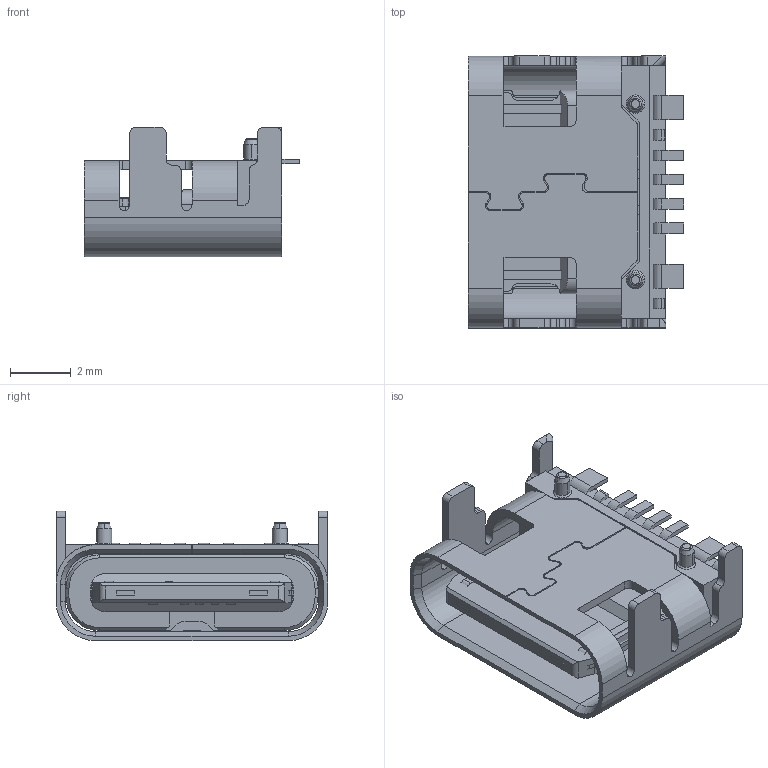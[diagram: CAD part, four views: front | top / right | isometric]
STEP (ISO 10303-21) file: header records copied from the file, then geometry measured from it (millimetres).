
FILE_DESCRIPTION (( 'STEP AP203' ), '1' );
FILE_NAME ('TYPE-C6PIN板上6.5（带数据版本）.STEP', '2023-09-04T09:22:00', ( '' ), ( '' ), 'SwSTEP 2.0', 'SolidWorks 2021', '' );
FILE_SCHEMA (( 'CONFIG_CONTROL_DESIGN' ));
Length unit declared in the file: millimetre
Products named in the file (5): 16pin6.5俋褲饜; 6PIN板上端子带数据直款20230713; 6PIN钢片20220620; TYPE-C6PIN板上6.5（带数据版本）; һģ0615
Assembly tree (4 placements, depth 2):
  TYPE-C6PIN板上6.5（带数据版本）
    6PIN钢片20220620
    6PIN板上端子带数据直款20230713
    16pin6.5俋褲饜
    һģ0615
Bounding box: 7.1 x 8.94 x 4.26 mm (x, y, z)
Volume: 101.7 mm3; surface area: 549.4 mm2
Topology: 11 solids, 27 shells, 846 faces, 2345 edges, 1550 vertices
Faces by surface type: plane 547, cylinder 269, cone 18, bspline 8, torus 4
Entity records: 27895 total; most frequent: CARTESIAN_POINT 5459, ORIENTED_EDGE 4690, DIRECTION 4470, EDGE_CURVE 2345, VECTOR 1716, LINE 1716, VERTEX_POINT 1550, AXIS2_PLACEMENT_3D 1377
